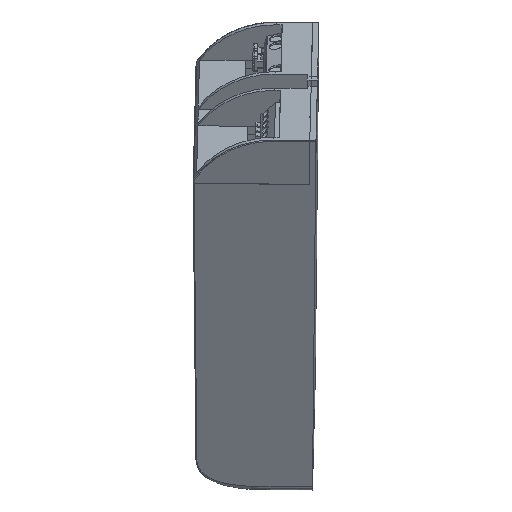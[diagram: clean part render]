
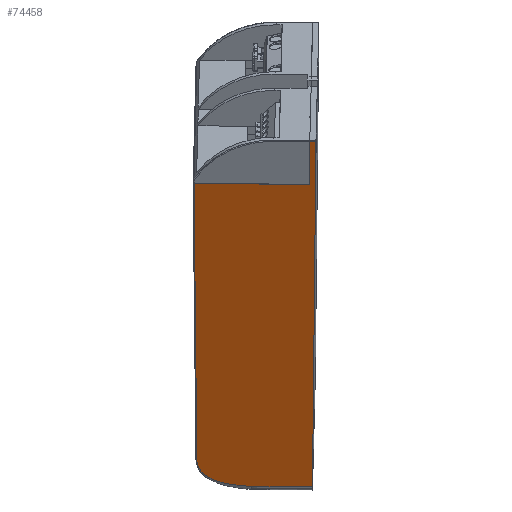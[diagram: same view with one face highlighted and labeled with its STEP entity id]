
A CAD part, left-side view. The second image highlights one B-rep face of the part: STEP entity #74458.
In plain terms, the highlighted planar face has unit normal (-0.86, 0.013, -0.51) as drawn and (0.009, 0, -1) by its records, which use the part's own axes.
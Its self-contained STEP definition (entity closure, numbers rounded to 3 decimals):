
#71920=CARTESIAN_POINT('',(-73.956,-10.042,
-38.497));
#71980=CARTESIAN_POINT('',(56.759,-8.901,
-37.357));
#71988=DIRECTION('',(1.,0.009,0.009));
#71989=VECTOR('',#71988,130.725);
#71990=CARTESIAN_POINT('',(-73.956,-10.042,
-38.497));
#71991=LINE('',#71990,#71989);
#72024=DIRECTION('',(0.,-1.,0.));
#72025=VECTOR('',#72024,2.);
#72026=CARTESIAN_POINT('',(-73.956,-8.042,
-38.497));
#72027=LINE('',#72026,#72025);
#72032=CARTESIAN_POINT('',(46.745,28.73,
-37.444));
#72033=CARTESIAN_POINT('',(47.232,28.721,
-37.44));
#72034=CARTESIAN_POINT('',(48.12,28.654,
-37.432));
#72035=CARTESIAN_POINT('',(49.243,28.34,
-37.422));
#72036=CARTESIAN_POINT('',(50.021,28.008,
-37.415));
#72037=CARTESIAN_POINT('',(50.868,27.513,
-37.408));
#72038=CARTESIAN_POINT('',(51.535,26.978,
-37.402));
#72039=CARTESIAN_POINT('',(52.096,26.482,
-37.397));
#72040=CARTESIAN_POINT('',(53.078,25.33,
-37.389));
#72041=CARTESIAN_POINT('',(53.545,24.627,
-37.385));
#72042=CARTESIAN_POINT('',(54.279,23.366,
-37.378));
#72043=CARTESIAN_POINT('',(54.948,21.718,
-37.372));
#72044=CARTESIAN_POINT('',(55.159,21.051,
-37.371));
#72045=CARTESIAN_POINT('',(55.422,20.145,
-37.368));
#72046=CARTESIAN_POINT('',(55.555,19.62,
-37.367));
#72047=CARTESIAN_POINT('',(55.821,18.402,
-37.365));
#72048=CARTESIAN_POINT('',(55.989,17.404,
-37.363));
#72049=CARTESIAN_POINT('',(56.152,16.215,
-37.362));
#72050=CARTESIAN_POINT('',(56.209,15.752,
-37.361));
#72051=CARTESIAN_POINT('',(56.364,14.432,
-37.36));
#72052=CARTESIAN_POINT('',(56.461,13.547,
-37.359));
#72053=CARTESIAN_POINT('',(56.597,12.299,
-37.358));
#72054=CARTESIAN_POINT('',(56.702,11.356,
-37.357));
#72055=CARTESIAN_POINT('',(56.759,10.845,
-37.357));
#72057=DIRECTION('',(1.,-0.009,0.009));
#72058=VECTOR('',#72057,104.477);
#72059=CARTESIAN_POINT('',(-57.724,29.642,
-38.356));
#72060=LINE('',#72059,#72058);
#72061=DIRECTION('',(0.,1.,0.));
#72062=VECTOR('',#72061,37.543);
#72063=CARTESIAN_POINT('',(-57.724,-7.901,
-38.356));
#72064=LINE('',#72063,#72062);
#72065=DIRECTION('',(1.,0.009,0.009));
#72066=VECTOR('',#72065,16.233);
#72067=CARTESIAN_POINT('',(-73.956,-8.042,
-38.497));
#72068=LINE('',#72067,#72066);
#72073=DIRECTION('',(0.,1.,0.));
#72074=VECTOR('',#72073,19.747);
#72075=CARTESIAN_POINT('',(56.759,-8.901,
-37.357));
#72076=LINE('',#72075,#72074);
#74109=CARTESIAN_POINT('',(56.759,10.845,
-37.357));
#74110=VERTEX_POINT('',#74109);
#74111=VERTEX_POINT('',#72032);
#74112=CARTESIAN_POINT('',(-57.724,29.642,
-38.356));
#74113=VERTEX_POINT('',#74112);
#74116=CARTESIAN_POINT('',(-57.724,-7.901,
-38.356));
#74117=VERTEX_POINT('',#74116);
#74134=CARTESIAN_POINT('',(-73.956,-8.042,
-38.497));
#74135=VERTEX_POINT('',#74134);
#74145=VERTEX_POINT('',#71920);
#74187=VERTEX_POINT('',#71980);
#74439=CARTESIAN_POINT('',(-74.258,29.955,
-38.5));
#74440=DIRECTION('',(-0.009,0.,1.));
#74441=DIRECTION('',(1.,0.,0.009));
#74442=AXIS2_PLACEMENT_3D('',#74439,#74440,#74441);
#74443=PLANE('',#74442);
#74444=ORIENTED_EDGE('',*,*,#74430,.T.);
#74445=ORIENTED_EDGE('',*,*,#74399,.T.);
#74447=ORIENTED_EDGE('',*,*,#74446,.T.);
#74449=ORIENTED_EDGE('',*,*,#74448,.F.);
#74451=ORIENTED_EDGE('',*,*,#74450,.F.);
#74453=ORIENTED_EDGE('',*,*,#74452,.F.);
#74455=ORIENTED_EDGE('',*,*,#74454,.F.);
#74456=EDGE_LOOP('',(#74444,#74445,#74447,#74449,#74451,#74453,#74455));
#74457=FACE_OUTER_BOUND('',#74456,.F.);
#74458=ADVANCED_FACE('',(#74457),#74443,.F.);
#72056=B_SPLINE_CURVE_WITH_KNOTS('',3,(#72032,#72033,#72034,#72035,#72036,
#72037,#72038,#72039,#72040,#72041,#72042,#72043,#72044,#72045,#72046,#72047,
#72048,#72049,#72050,#72051,#72052,#72053,#72054,#72055),.UNSPECIFIED.,.F.,.F.,(
4,1,1,1,1,1,1,1,1,1,1,1,1,1,1,1,1,1,1,1,1,4),(0.,0.048,
0.095,0.143,0.19,0.238,
0.286,0.333,0.381,0.429,
0.476,0.524,0.571,0.619,
0.667,0.714,0.762,0.81,
0.857,0.905,0.952,1.),.UNSPECIFIED.);
#74399=EDGE_CURVE('',#74145,#74187,#71991,.T.);
#74430=EDGE_CURVE('',#74135,#74145,#72027,.T.);
#74446=EDGE_CURVE('',#74187,#74110,#72076,.T.);
#74448=EDGE_CURVE('',#74111,#74110,#72056,.T.);
#74450=EDGE_CURVE('',#74113,#74111,#72060,.T.);
#74452=EDGE_CURVE('',#74117,#74113,#72064,.T.);
#74454=EDGE_CURVE('',#74135,#74117,#72068,.T.);
